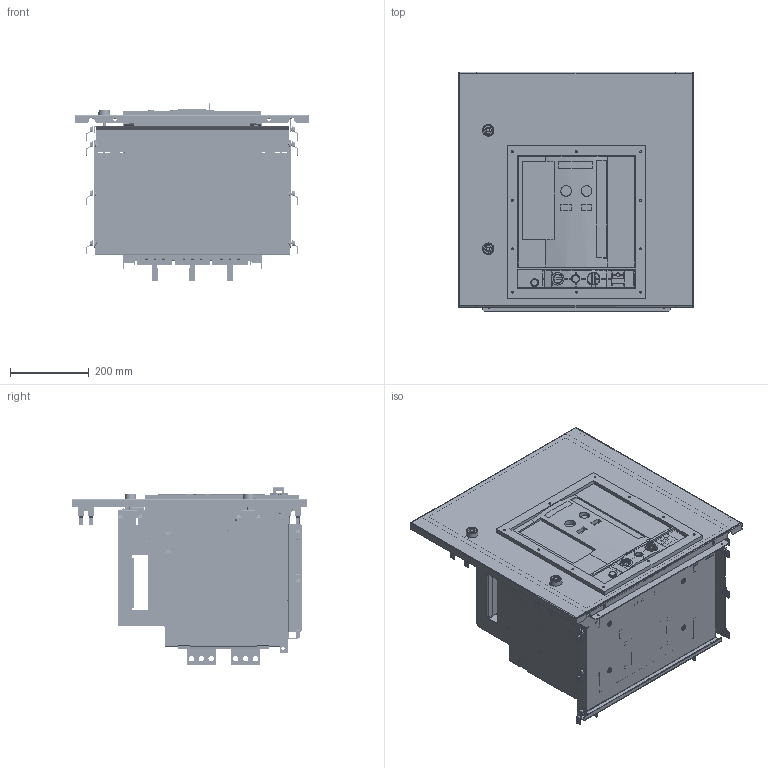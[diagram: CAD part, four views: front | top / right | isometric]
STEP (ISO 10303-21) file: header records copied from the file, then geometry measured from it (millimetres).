
FILE_DESCRIPTION(('CAx-IF Rec.Pracs.---Model Styling and Organization---1.2---2011-12-15','CAx-IF Rec.Pracs.---Geometric and Assembly Validation Properties---4.1---2014-06-16','CAx-IF Rec.Pracs.---PMI Polyline Presentation---2.0---2013-05-24'),'2;1');
FILE_NAME('R5PKEB7V61522.stp','2021-07-29T02:29:07+03:00',(''),(''),'STEP Interface 4.4 by CT CoreTechnologie','3D_Evolution4.4 by CT CoreTechnologie','');
FILE_SCHEMA(('AUTOMOTIVE_DESIGN { 1 0 10303 214 1 1 1 1 }'));
Length unit declared in the file: millimetre
Products named in the file (1): R5PKEB7V61522
Bounding box: 594 x 607.5 x 448.6 mm (x, y, z)
Surface area: 5211303.6 mm2 (no closed solid volume)
Topology: 0 solids, 157 shells, 7170 faces, 20374 edges, 13374 vertices
Faces by surface type: plane 4398, cylinder 2337, bspline 435
Entity records: 244759 total; most frequent: CARTESIAN_POINT 55913, ORIENTED_EDGE 40494, DIRECTION 38159, EDGE_CURVE 20265, VECTOR 14885, LINE 14885, VERTEX_POINT 13393, AXIS2_PLACEMENT_3D 11637
